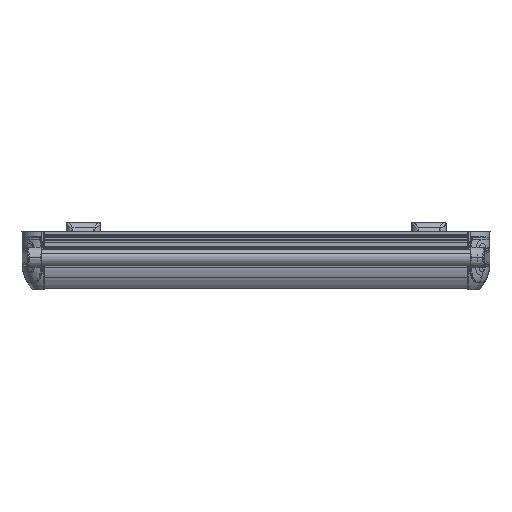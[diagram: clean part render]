
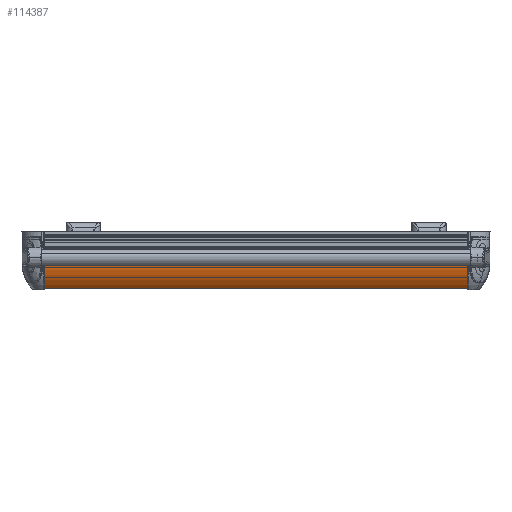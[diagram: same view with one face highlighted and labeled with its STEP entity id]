
A CAD part, left-side view. The second image highlights one B-rep face of the part: STEP entity #114387.
In plain terms, the highlighted cylindrical face has radius 44.051 mm (diameter 88.101 mm), a partial arc.
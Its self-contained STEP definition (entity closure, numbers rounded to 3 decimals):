
#1508 = DIRECTION ( 'NONE',  ( 0., 0., 1. ) ) ;
#4886 = CARTESIAN_POINT ( 'NONE',  ( 8.721, 9.697, 0. ) ) ;
#11734 = CARTESIAN_POINT ( 'NONE',  ( 36.727, -2.326, -495. ) ) ;
#17871 = CARTESIAN_POINT ( 'NONE',  ( 8.721, 9.697, -495. ) ) ;
#19200 = CARTESIAN_POINT ( 'NONE',  ( 6.42, -34.294, -495. ) ) ;
#23911 = AXIS2_PLACEMENT_3D ( 'NONE', #19200, #114307, #34216 ) ;
#31063 = DIRECTION ( 'NONE',  ( 1., 0., 0. ) ) ;
#32576 = CARTESIAN_POINT ( 'NONE',  ( 8.721, 9.697, -495. ) ) ;
#32648 = EDGE_CURVE ( 'NONE', #161509, #78983, #51675, .T. ) ;
#33036 = FACE_OUTER_BOUND ( 'NONE', #165658, .T. ) ;
#34031 = CARTESIAN_POINT ( 'NONE',  ( 6.42, -34.294, -495. ) ) ;
#34216 = DIRECTION ( 'NONE',  ( 1., 0., 0. ) ) ;
#39543 = CIRCLE ( 'NONE', #23911, 44.051 ) ;
#40782 = VERTEX_POINT ( 'NONE', #11734 ) ;
#49037 = DIRECTION ( 'NONE',  ( 0., 0., 1. ) ) ;
#51675 = CIRCLE ( 'NONE', #163587, 44.051 ) ;
#57204 = EDGE_CURVE ( 'NONE', #113162, #78983, #66568, .T. ) ;
#62999 = EDGE_CURVE ( 'NONE', #40782, #161509, #142883, .T. ) ;
#66568 = LINE ( 'NONE', #32576, #89935 ) ;
#67678 = ORIENTED_EDGE ( 'NONE', *, *, #89423, .T. ) ;
#78983 = VERTEX_POINT ( 'NONE', #4886 ) ;
#89423 = EDGE_CURVE ( 'NONE', #40782, #113162, #39543, .T. ) ;
#89935 = VECTOR ( 'NONE', #1508, 1000. ) ;
#91575 = ORIENTED_EDGE ( 'NONE', *, *, #62999, .F. ) ;
#100828 = ORIENTED_EDGE ( 'NONE', *, *, #57204, .T. ) ;
#110122 = CYLINDRICAL_SURFACE ( 'NONE', #156054, 44.051 ) ;
#111840 = CARTESIAN_POINT ( 'NONE',  ( 36.727, -2.326, -495. ) ) ;
#113162 = VERTEX_POINT ( 'NONE', #17871 ) ;
#114307 = DIRECTION ( 'NONE',  ( 0., 0., 1. ) ) ;
#114387 = ADVANCED_FACE ( 'NONE', ( #33036 ), #110122, .T. ) ;
#128328 = ORIENTED_EDGE ( 'NONE', *, *, #32648, .F. ) ;
#142883 = LINE ( 'NONE', #111840, #158096 ) ;
#154997 = DIRECTION ( 'NONE',  ( 0., 0., 1. ) ) ;
#156054 = AXIS2_PLACEMENT_3D ( 'NONE', #34031, #168280, #31063 ) ;
#158096 = VECTOR ( 'NONE', #154997, 1000. ) ;
#161509 = VERTEX_POINT ( 'NONE', #189894 ) ;
#163587 = AXIS2_PLACEMENT_3D ( 'NONE', #186181, #49037, #171133 ) ;
#165658 = EDGE_LOOP ( 'NONE', ( #128328, #91575, #67678, #100828 ) ) ;
#168280 = DIRECTION ( 'NONE',  ( 0., 0., 1. ) ) ;
#171133 = DIRECTION ( 'NONE',  ( 1., 0., 0. ) ) ;
#186181 = CARTESIAN_POINT ( 'NONE',  ( 6.42, -34.294, 0. ) ) ;
#189894 = CARTESIAN_POINT ( 'NONE',  ( 36.727, -2.326, 0. ) ) ;
